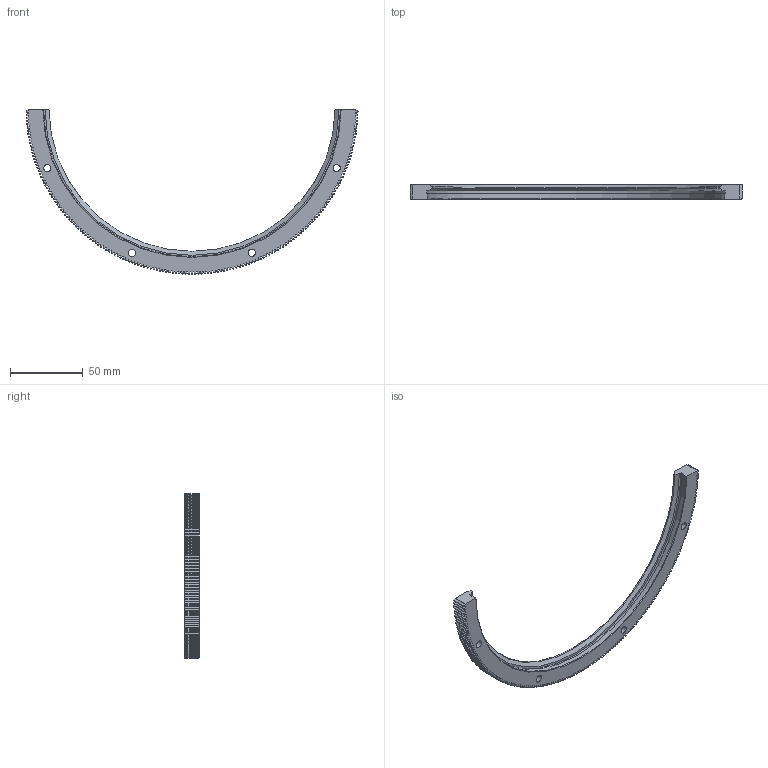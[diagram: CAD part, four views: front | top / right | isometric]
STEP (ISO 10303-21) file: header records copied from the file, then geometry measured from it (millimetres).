
FILE_DESCRIPTION(('STEP AP203'),'1');
FILE_NAME('RIV 228 R180 P.stp','2022-07-19T05:00:44',(' '),(' '),'Spatial InterOp 3D',' ',' ');
FILE_SCHEMA(('CONFIG_CONTROL_DESIGN'));
Length unit declared in the file: millimetre
Products named in the file (1): RIV 228 R180 P
Bounding box: 228.17 x 10 x 113.1 mm (x, y, z)
Volume: 39655.4 mm3; surface area: 20478.9 mm2
Topology: 1 solids, 1 shells, 992 faces, 2962 edges, 1976 vertices
Faces by surface type: plane 656, cylinder 171, cone 164, torus 1
Full cylindrical faces by diameter (mm): 5 x4, 8 x4
Entity records: 33497 total; most frequent: CARTESIAN_POINT 6924, ORIENTED_EDGE 5900, DIRECTION 5114, EDGE_CURVE 2950, LINE 2112, VECTOR 2112, VERTEX_POINT 1972, AXIS2_PLACEMENT_3D 1501
